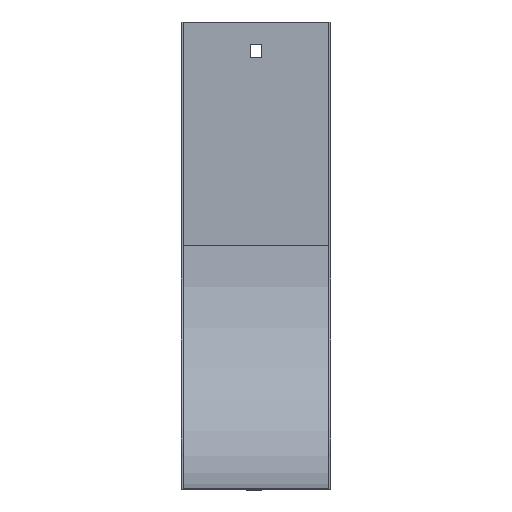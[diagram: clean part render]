
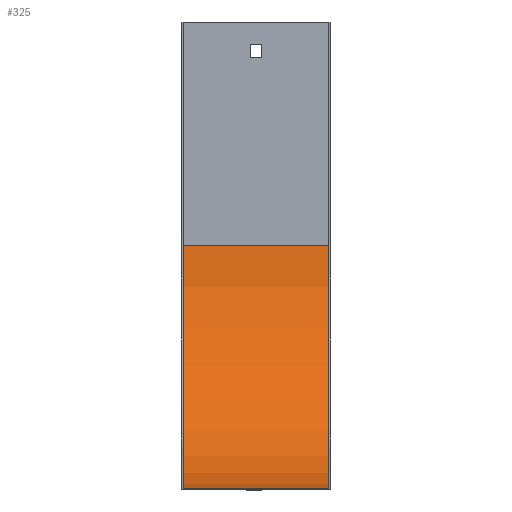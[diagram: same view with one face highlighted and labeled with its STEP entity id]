
A CAD part, front view. The second image highlights one B-rep face of the part: STEP entity #325.
In plain terms, the highlighted cylindrical face has radius 125 mm (diameter 250 mm), a partial arc.
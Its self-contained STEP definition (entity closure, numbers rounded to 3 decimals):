
#26 = EDGE_CURVE ( 'NONE', #579, #83, #694, .T. ) ;
#46 = CARTESIAN_POINT ( 'NONE',  ( 38.5, -126., -240. ) ) ;
#82 = DIRECTION ( 'NONE',  ( 0., 0., 1. ) ) ;
#83 = VERTEX_POINT ( 'NONE', #521 ) ;
#93 = CARTESIAN_POINT ( 'NONE',  ( -37.5, -126., -240. ) ) ;
#99 = CARTESIAN_POINT ( 'NONE',  ( 38.5, -1., -115. ) ) ;
#122 = VECTOR ( 'NONE', #359, 1000. ) ;
#127 = VERTEX_POINT ( 'NONE', #793 ) ;
#162 = ORIENTED_EDGE ( 'NONE', *, *, #412, .F. ) ;
#251 = DIRECTION ( 'NONE',  ( 1., 0., 0. ) ) ;
#266 = CYLINDRICAL_SURFACE ( 'NONE', #827, 125. ) ;
#295 = ORIENTED_EDGE ( 'NONE', *, *, #26, .T. ) ;
#311 = CARTESIAN_POINT ( 'NONE',  ( -37.5, -126., -115. ) ) ;
#316 = ORIENTED_EDGE ( 'NONE', *, *, #431, .F. ) ;
#325 = ADVANCED_FACE ( 'NONE', ( #414 ), #266, .F. ) ;
#353 = VERTEX_POINT ( 'NONE', #93 ) ;
#359 = DIRECTION ( 'NONE',  ( -1., 0., 0. ) ) ;
#391 = AXIS2_PLACEMENT_3D ( 'NONE', #505, #251, #839 ) ;
#412 = EDGE_CURVE ( 'NONE', #127, #353, #626, .T. ) ;
#414 = FACE_OUTER_BOUND ( 'NONE', #565, .T. ) ;
#431 = EDGE_CURVE ( 'NONE', #353, #83, #540, .T. ) ;
#492 = DIRECTION ( 'NONE',  ( 1., 0., 0. ) ) ;
#505 = CARTESIAN_POINT ( 'NONE',  ( 37.5, -126., -115. ) ) ;
#516 = ORIENTED_EDGE ( 'NONE', *, *, #606, .T. ) ;
#521 = CARTESIAN_POINT ( 'NONE',  ( -37.5, -1., -115. ) ) ;
#540 = CIRCLE ( 'NONE', #760, 125. ) ;
#564 = VECTOR ( 'NONE', #576, 1000. ) ;
#565 = EDGE_LOOP ( 'NONE', ( #316, #162, #516, #295 ) ) ;
#576 = DIRECTION ( 'NONE',  ( -1., 0., 0. ) ) ;
#579 = VERTEX_POINT ( 'NONE', #784 ) ;
#606 = EDGE_CURVE ( 'NONE', #127, #579, #674, .T. ) ;
#626 = LINE ( 'NONE', #46, #122 ) ;
#674 = CIRCLE ( 'NONE', #391, 125. ) ;
#675 = DIRECTION ( 'NONE',  ( -1., 0., 0. ) ) ;
#684 = DIRECTION ( 'NONE',  ( 0., 0., 1. ) ) ;
#694 = LINE ( 'NONE', #99, #564 ) ;
#760 = AXIS2_PLACEMENT_3D ( 'NONE', #311, #492, #684 ) ;
#784 = CARTESIAN_POINT ( 'NONE',  ( 37.5, -1., -115. ) ) ;
#793 = CARTESIAN_POINT ( 'NONE',  ( 37.5, -126., -240. ) ) ;
#797 = CARTESIAN_POINT ( 'NONE',  ( 38.5, -126., -115. ) ) ;
#827 = AXIS2_PLACEMENT_3D ( 'NONE', #797, #675, #82 ) ;
#839 = DIRECTION ( 'NONE',  ( 0., 0., 1. ) ) ;
